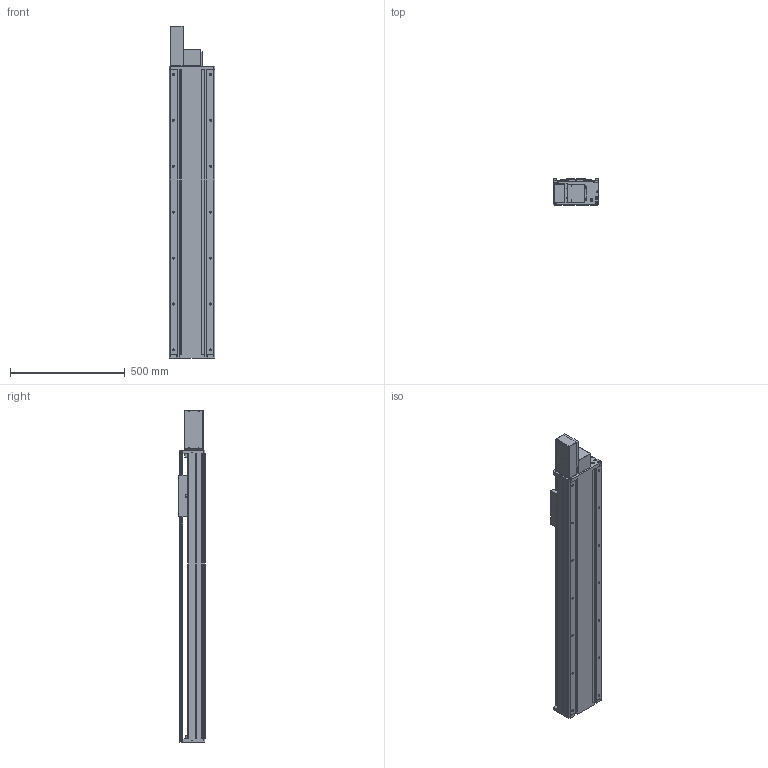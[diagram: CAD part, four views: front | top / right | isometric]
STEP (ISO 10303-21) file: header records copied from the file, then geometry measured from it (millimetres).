
FILE_DESCRIPTION(/* description */ (''),/* implementation_level */ '2;1');
FILE_NAME(/* name */ 'TKB200-FR-1000_asm1.stp',/* time_stamp */ '2016-05-18T11:38:37+08:00',/* author */ (''),/* organization */ (''),/* preprocessor_version */ 'ST-DEVELOPER v15',/* originating_system */ 'SIEMENS PLM Software NX 8.5',/* authorisation */ '');
FILE_SCHEMA (('AUTOMOTIVE_DESIGN { 1 0 10303 214 3 1 1 1 }'));
Length unit declared in the file: millimetre
Products named in the file (3): 200-2; 200-1; TKB200-FR-1000_asm1
Assembly tree (2 placements, depth 2):
  TKB200-FR-1000_asm1
    200-1
    200-2
Bounding box: 200 x 115 x 1445 mm (x, y, z)
Volume: 8490704.1 mm3; surface area: 2647167.9 mm2
Topology: 2 solids, 3 shells, 1027 faces, 2917 edges, 1877 vertices
Faces by surface type: plane 471, cylinder 470, cone 70, bspline 16
Full cylindrical faces by diameter (mm): 2.5 x2, 3.3 x16, 4.3 x4, 4.5 x8, 5 x2, 6.6 x34, 6.8 x8, 8 x6, 9 x22, 10 x4, 11 x22, 12 x16, 14 x14, 75 x1
Entity records: 35122 total; most frequent: CARTESIAN_POINT 9273, DIRECTION 5295, ORIENTED_EDGE 5186, EDGE_CURVE 2593, AXIS2_PLACEMENT_3D 1920, VERTEX_POINT 1784, LINE 1455, VECTOR 1455
